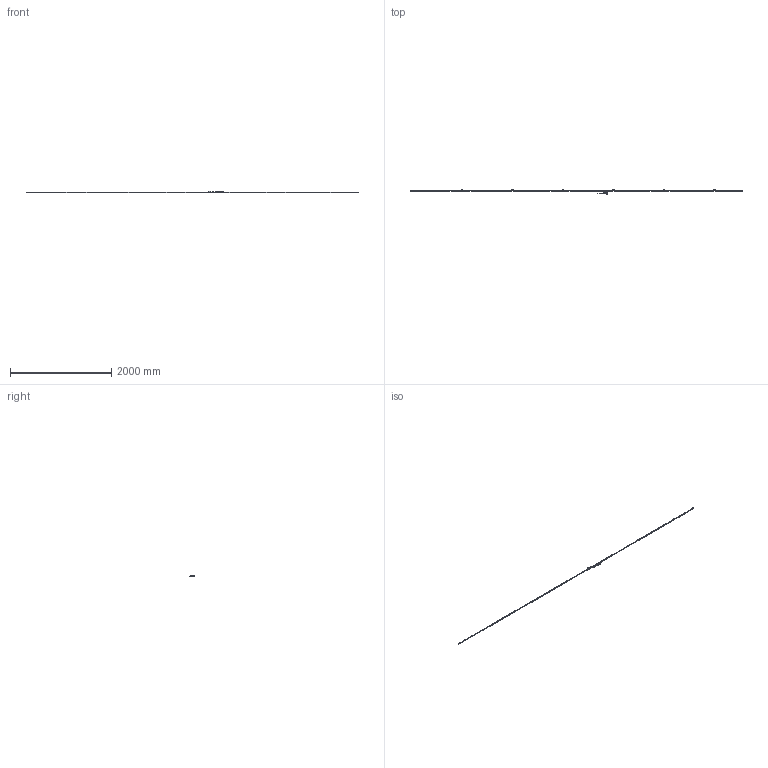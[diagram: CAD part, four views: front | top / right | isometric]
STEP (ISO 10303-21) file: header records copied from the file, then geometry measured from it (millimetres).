
FILE_DESCRIPTION(('Creo Elements/Direct Modeling STEP Export'),'2;1');
FILE_NAME('ST1300-6400D.stp','2018-03-01T15:18:47',(''),(''),'Creo Elements/Direct Modeling STEP processor for AP214 (Solid Model)','Creo Elements/Direct Modeling 18.1B 29-Sep-2012 (C) Parametric Technology GmbH','');
FILE_SCHEMA(('AUTOMOTIVE_DESIGN { 1 0 10303 214 1 1 1 1 }'));
Length unit declared in the file: millimetre
Products named in the file (4): Detector_Head; Connector; Scale_6400; ST1300-6400D
Assembly tree (3 placements, depth 2):
  ST1300-6400D
    Scale_6400
    Connector
    Detector_Head
Bounding box: 6573 x 88.3 x 30.1 mm (x, y, z)
Volume: 563890.7 mm3; surface area: 362155.3 mm2
Topology: 2 solids, 10 shells, 5326 faces, 14344 edges, 9261 vertices
Faces by surface type: plane 2416, cylinder 2016, extrusion 694, cone 123, torus 50, bspline 23, revolution 4
Entity records: 173533 total; most frequent: CARTESIAN_POINT 42907, ORIENTED_EDGE 28664, DIRECTION 24190, EDGE_CURVE 14328, VERTEX_POINT 9261, VECTOR 8636, LINE 7974, AXIS2_PLACEMENT_3D 7774
